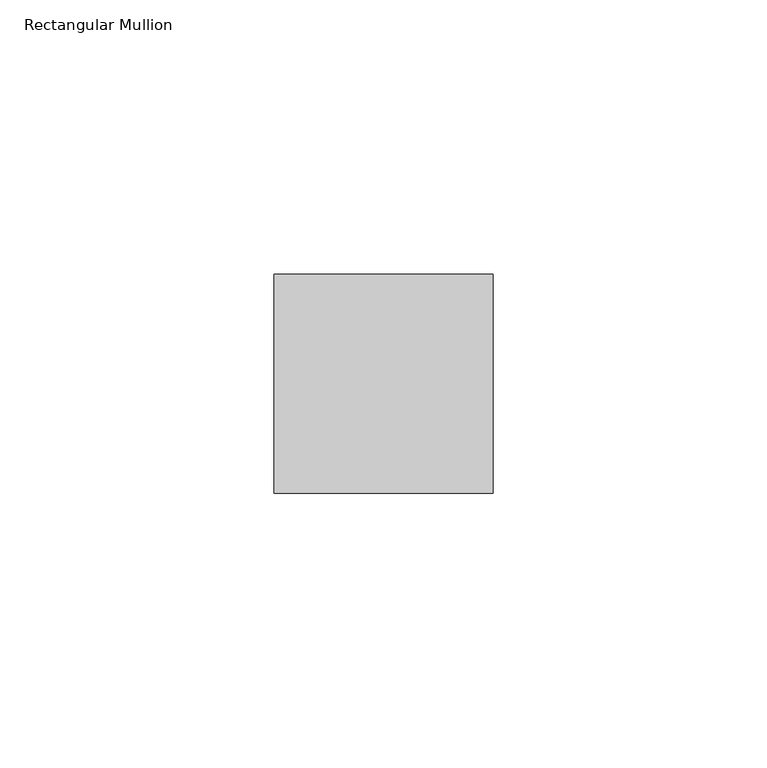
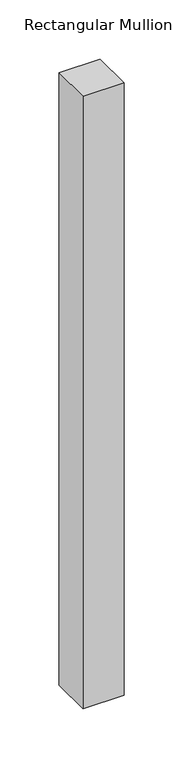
"""IFC4 building model written with IfcOpenShell, lengths in millimetres: member geometry, Rectangular Mullion : Danpal_NM_Middle-H-Mullion."""

from ifc_helpers import new_model, si_unit, frame, origin, place, context, project, spatial, polyline, outline, extrude, source, transform, mapped, element, save


def rectangular_mullion_8e6b7b6a(model_context):
    return source(origin(), model_context, "Body", "SweptSolid", [
        extrude(outline(polyline([(59.9, 13.2378279), (19.9, 13.2378279), (19.9, 53.2378279), (59.9, 53.2378279), (59.9, 13.2378279)])), frame((0.0, 0.0, -630.0), z_axis=(0.0, 0.0, 1.0), x_axis=(1.0, 0.0, 0.0)), (0.0, 0.0, 1.0), 630.0),
    ])


if __name__ == "__main__":
    model = new_model("IFC4")
    model_context = context("Model", 3, world=origin())
    ifc_project = project(units=[si_unit("LENGTHUNIT", "METRE", prefix="MILLI")], contexts=[model_context])
    site = spatial("IfcSite", under=ifc_project)
    building = spatial("IfcBuilding", under=site)
    placement = place(None, origin())
    rectangular_mullion_shape = rectangular_mullion_8e6b7b6a(model_context)
    element("IfcMember", 1, ObjectType="Rectangular Mullion : Danpal_NM_Middle-H-Mullion", at=placement, inside=building, context=model_context, shape_type="MappedRepresentation", body=[
        mapped(rectangular_mullion_shape, transform((0.0, 0.0, 0.0), x_axis=(1.0, 0.0, 0.0), y_axis=(0.0, 1.0, 0.0), z_axis=(0.0, 0.0, 1.0))),
    ])
    save(model, "model.ifc")
